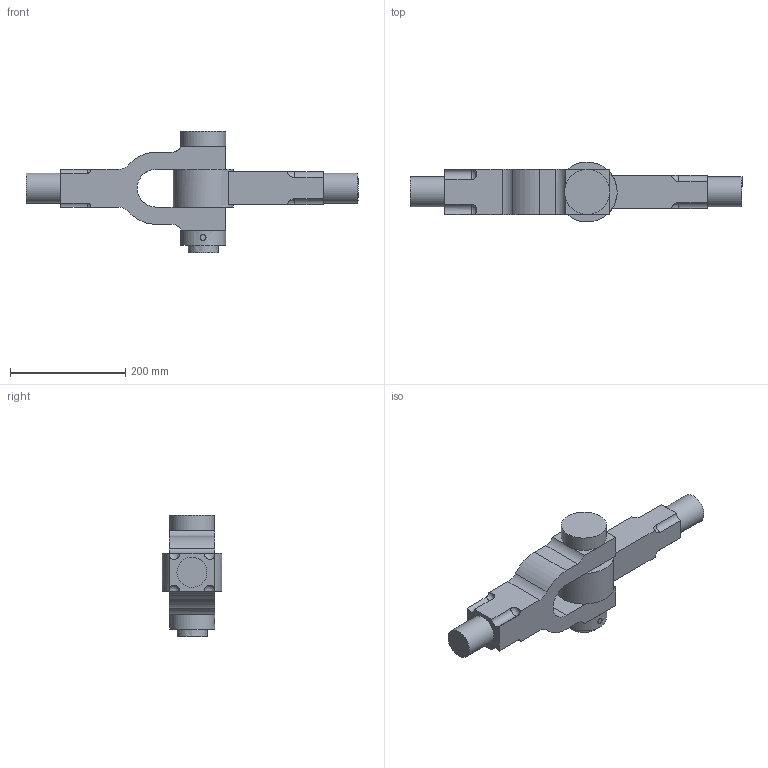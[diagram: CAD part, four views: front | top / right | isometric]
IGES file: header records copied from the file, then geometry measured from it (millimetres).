
Global section: file name: knuckle-joint v3; native system: unknown; preprocessor: unknown; author: unknown; organization: unknown; date: 20230823.084145; units: millimetre
Bounding box: 575.44 x 103.93 x 210 mm (x, y, z)
Volume: 2961404.8 mm3; surface area: 296273.4 mm2
Topology: 5 solids, 5 shells, 66 faces, 179 edges, 116 vertices
Faces by surface type: bspline 66
